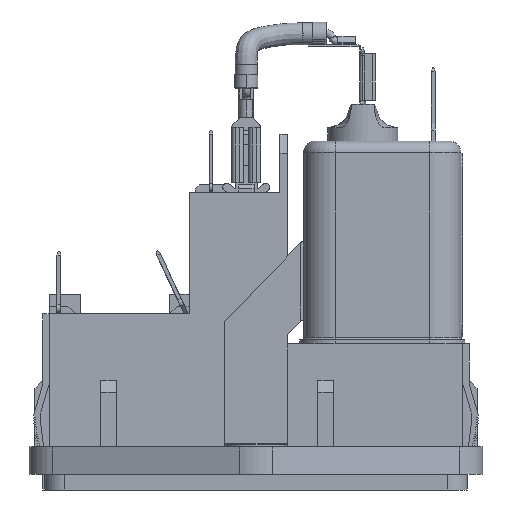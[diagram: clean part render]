
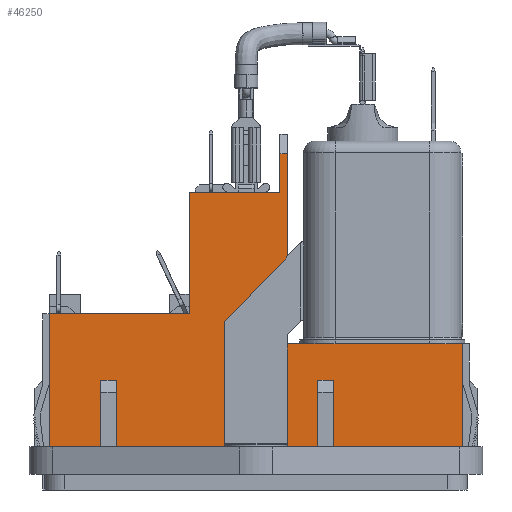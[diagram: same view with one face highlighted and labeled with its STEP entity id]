
A CAD part, left-side view. The second image highlights one B-rep face of the part: STEP entity #46250.
In plain terms, the highlighted planar face has unit normal (-1, 0, 0).
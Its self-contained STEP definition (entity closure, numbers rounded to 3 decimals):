
#31406=CARTESIAN_POINT('',(-13.35,8.55,36.0));
#31407=VERTEX_POINT('',#31406);
#31408=CARTESIAN_POINT('',(-13.35,-3.05,36.0));
#31409=VERTEX_POINT('',#31408);
#31410=CARTESIAN_POINT('',(-13.35,8.55,36.0));
#31411=DIRECTION('',(0.0,-1.0,0.0));
#31412=VECTOR('',#31411,11.6);
#31413=LINE('',#31410,#31412);
#31414=EDGE_CURVE('',#31407,#31409,#31413,.T.);
#33040=CARTESIAN_POINT('',(-13.35,-7.4,16.7));
#33041=VERTEX_POINT('',#33040);
#33042=CARTESIAN_POINT('',(-13.35,-7.748,16.7));
#33043=VERTEX_POINT('',#33042);
#33044=CARTESIAN_POINT('',(-13.35,-7.4,16.7));
#33045=DIRECTION('',(0.0,-1.0,0.0));
#33046=VECTOR('',#33045,0.348);
#33047=LINE('',#33044,#33046);
#33048=EDGE_CURVE('',#33041,#33043,#33047,.T.);
#33067=CARTESIAN_POINT('',(-13.35,-24.552,16.7));
#33068=VERTEX_POINT('',#33067);
#33076=CARTESIAN_POINT('',(-13.35,-24.9,16.7));
#33077=VERTEX_POINT('',#33076);
#33078=CARTESIAN_POINT('',(-13.35,-24.552,16.7));
#33079=DIRECTION('',(0.0,-1.0,0.0));
#33080=VECTOR('',#33079,0.348);
#33081=LINE('',#33078,#33080);
#33082=EDGE_CURVE('',#33068,#33077,#33081,.T.);
#36244=CARTESIAN_POINT('',(-13.35,-10.25,16.7));
#36245=VERTEX_POINT('',#36244);
#36246=CARTESIAN_POINT('',(-13.35,-7.748,16.7));
#36247=DIRECTION('',(0.0,-1.0,0.0));
#36248=VECTOR('',#36247,2.502);
#36249=LINE('',#36246,#36248);
#36250=EDGE_CURVE('',#33043,#36245,#36249,.T.);
#36305=CARTESIAN_POINT('',(-13.35,-4.05,16.7));
#36306=VERTEX_POINT('',#36305);
#36313=CARTESIAN_POINT('',(-13.35,-4.05,16.7));
#36314=DIRECTION('',(0.0,-1.0,0.0));
#36315=VECTOR('',#36314,3.35);
#36316=LINE('',#36313,#36315);
#36317=EDGE_CURVE('',#36306,#33041,#36316,.T.);
#36360=CARTESIAN_POINT('',(-13.35,-26.45,16.7));
#36361=VERTEX_POINT('',#36360);
#36362=CARTESIAN_POINT('',(-13.35,-24.9,16.7));
#36363=DIRECTION('',(0.0,-1.0,0.0));
#36364=VECTOR('',#36363,1.55);
#36365=LINE('',#36362,#36364);
#36366=EDGE_CURVE('',#33077,#36361,#36365,.T.);
#36464=CARTESIAN_POINT('',(-13.35,-22.05,16.7));
#36465=VERTEX_POINT('',#36464);
#36473=CARTESIAN_POINT('',(-13.35,-22.05,16.7));
#36474=DIRECTION('',(0.0,-1.0,0.0));
#36475=VECTOR('',#36474,2.502);
#36476=LINE('',#36473,#36475);
#36477=EDGE_CURVE('',#36465,#33068,#36476,.T.);
#36817=CARTESIAN_POINT('',(-13.35,-26.45,3.5));
#36818=VERTEX_POINT('',#36817);
#36825=CARTESIAN_POINT('',(-13.35,-9.9,3.5));
#36826=VERTEX_POINT('',#36825);
#36827=CARTESIAN_POINT('',(-13.35,-26.45,3.5));
#36828=DIRECTION('',(0.0,1.0,0.0));
#36829=VECTOR('',#36828,16.55);
#36830=LINE('',#36827,#36829);
#36831=EDGE_CURVE('',#36818,#36826,#36830,.T.);
#36849=CARTESIAN_POINT('',(-13.35,-7.9,3.5));
#36850=VERTEX_POINT('',#36849);
#36857=CARTESIAN_POINT('',(-13.35,17.85,3.5));
#36858=VERTEX_POINT('',#36857);
#36859=CARTESIAN_POINT('',(-13.35,-7.9,3.5));
#36860=DIRECTION('',(0.0,1.0,0.0));
#36861=VECTOR('',#36860,25.75);
#36862=LINE('',#36859,#36861);
#36863=EDGE_CURVE('',#36850,#36858,#36862,.T.);
#36881=CARTESIAN_POINT('',(-13.35,19.85,3.5));
#36882=VERTEX_POINT('',#36881);
#36889=CARTESIAN_POINT('',(-13.35,26.45,3.5));
#36890=VERTEX_POINT('',#36889);
#36891=CARTESIAN_POINT('',(-13.35,19.85,3.5));
#36892=DIRECTION('',(0.0,1.0,0.0));
#36893=VECTOR('',#36892,6.6);
#36894=LINE('',#36891,#36893);
#36895=EDGE_CURVE('',#36882,#36890,#36894,.T.);
#38268=CARTESIAN_POINT('',(-13.35,8.55,20.5));
#38269=VERTEX_POINT('',#38268);
#38276=CARTESIAN_POINT('',(-13.35,8.55,20.5));
#38277=DIRECTION('',(0.0,0.0,1.0));
#38278=VECTOR('',#38277,15.5);
#38279=LINE('',#38276,#38278);
#38280=EDGE_CURVE('',#38269,#31407,#38279,.T.);
#38443=CARTESIAN_POINT('',(-13.35,26.45,20.5));
#38444=VERTEX_POINT('',#38443);
#38451=CARTESIAN_POINT('',(-13.35,8.55,20.5));
#38452=DIRECTION('',(0.0,1.0,0.0));
#38453=VECTOR('',#38452,17.9);
#38454=LINE('',#38451,#38453);
#38455=EDGE_CURVE('',#38269,#38444,#38454,.T.);
#44984=CARTESIAN_POINT('',(-13.35,19.85,12.));
#44985=VERTEX_POINT('',#44984);
#45002=CARTESIAN_POINT('',(-13.35,17.85,12.));
#45003=VERTEX_POINT('',#45002);
#45010=CARTESIAN_POINT('',(-13.35,19.85,12.));
#45011=DIRECTION('',(0.0,-1.0,0.0));
#45012=VECTOR('',#45011,2.0);
#45013=LINE('',#45010,#45012);
#45014=EDGE_CURVE('',#44985,#45003,#45013,.T.);
#45032=CARTESIAN_POINT('',(-13.35,17.85,12.0));
#45033=DIRECTION('',(0.0,0.0,-1.0));
#45034=VECTOR('',#45033,8.5);
#45035=LINE('',#45032,#45034);
#45036=EDGE_CURVE('',#45003,#36858,#45035,.T.);
#45046=CARTESIAN_POINT('',(-13.35,-7.9,12.));
#45047=VERTEX_POINT('',#45046);
#45064=CARTESIAN_POINT('',(-13.35,-9.9,12.));
#45065=VERTEX_POINT('',#45064);
#45072=CARTESIAN_POINT('',(-13.35,-7.9,12.));
#45073=DIRECTION('',(0.0,-1.0,0.0));
#45074=VECTOR('',#45073,2.0);
#45075=LINE('',#45072,#45074);
#45076=EDGE_CURVE('',#45047,#45065,#45075,.T.);
#45094=CARTESIAN_POINT('',(-13.35,-9.9,12.0));
#45095=DIRECTION('',(0.0,0.0,-1.0));
#45096=VECTOR('',#45095,8.5);
#45097=LINE('',#45094,#45096);
#45098=EDGE_CURVE('',#45065,#36826,#45097,.T.);
#45354=CARTESIAN_POINT('',(-13.35,-7.9,3.5));
#45355=DIRECTION('',(0.0,0.0,1.0));
#45356=VECTOR('',#45355,8.5);
#45357=LINE('',#45354,#45356);
#45358=EDGE_CURVE('',#36850,#45047,#45357,.T.);
#45388=CARTESIAN_POINT('',(-13.35,19.85,3.5));
#45389=DIRECTION('',(0.0,0.0,1.0));
#45390=VECTOR('',#45389,8.5);
#45391=LINE('',#45388,#45390);
#45392=EDGE_CURVE('',#36882,#44985,#45391,.T.);
#46133=CARTESIAN_POINT('',(-13.35,-4.05,41.0));
#46134=VERTEX_POINT('',#46133);
#46141=CARTESIAN_POINT('',(-13.35,-4.05,41.0));
#46142=DIRECTION('',(0.0,0.0,-1.0));
#46143=VECTOR('',#46142,24.3);
#46144=LINE('',#46141,#46143);
#46145=EDGE_CURVE('',#46134,#36306,#46144,.T.);
#46166=CARTESIAN_POINT('',(-13.35,-3.05,41.0));
#46167=VERTEX_POINT('',#46166);
#46174=CARTESIAN_POINT('',(-13.35,-3.05,41.0));
#46175=DIRECTION('',(0.0,-1.0,0.0));
#46176=VECTOR('',#46175,1.);
#46177=LINE('',#46174,#46176);
#46178=EDGE_CURVE('',#46167,#46134,#46177,.T.);
#46183=CARTESIAN_POINT('',(-13.35,-26.45,3.5));
#46184=DIRECTION('',(-1.0,0.0,0.0));
#46185=DIRECTION('',(0.0,0.0,1.0));
#46186=AXIS2_PLACEMENT_3D('',#46183,#46184,#46185);
#46187=PLANE('',#46186);
#46188=ORIENTED_EDGE('',*,*,#45098,.T.);
#46189=ORIENTED_EDGE('',*,*,#36831,.F.);
#46190=CARTESIAN_POINT('',(-13.35,-26.45,3.5));
#46191=DIRECTION('',(0.0,0.0,1.0));
#46192=VECTOR('',#46191,13.2);
#46193=LINE('',#46190,#46192);
#46194=EDGE_CURVE('',#36818,#36361,#46193,.T.);
#46195=ORIENTED_EDGE('',*,*,#46194,.T.);
#46196=ORIENTED_EDGE('',*,*,#36366,.F.);
#46197=ORIENTED_EDGE('',*,*,#33082,.F.);
#46198=ORIENTED_EDGE('',*,*,#36477,.F.);
#46199=CARTESIAN_POINT('',(-13.35,-22.05,18.7));
#46200=VERTEX_POINT('',#46199);
#46201=CARTESIAN_POINT('',(-13.35,-22.05,18.7));
#46202=DIRECTION('',(0.0,0.0,-1.0));
#46203=VECTOR('',#46202,2.);
#46204=LINE('',#46201,#46203);
#46205=EDGE_CURVE('',#46200,#36465,#46204,.T.);
#46206=ORIENTED_EDGE('',*,*,#46205,.F.);
#46207=CARTESIAN_POINT('',(-13.35,-10.25,18.7));
#46208=VERTEX_POINT('',#46207);
#46209=CARTESIAN_POINT('',(-13.35,-10.25,18.7));
#46210=DIRECTION('',(0.0,-1.0,0.0));
#46211=VECTOR('',#46210,11.8);
#46212=LINE('',#46209,#46211);
#46213=EDGE_CURVE('',#46208,#46200,#46212,.T.);
#46214=ORIENTED_EDGE('',*,*,#46213,.F.);
#46215=CARTESIAN_POINT('',(-13.35,-10.25,16.7));
#46216=DIRECTION('',(0.0,0.0,1.0));
#46217=VECTOR('',#46216,2.0);
#46218=LINE('',#46215,#46217);
#46219=EDGE_CURVE('',#36245,#46208,#46218,.T.);
#46220=ORIENTED_EDGE('',*,*,#46219,.F.);
#46221=ORIENTED_EDGE('',*,*,#36250,.F.);
#46222=ORIENTED_EDGE('',*,*,#33048,.F.);
#46223=ORIENTED_EDGE('',*,*,#36317,.F.);
#46224=ORIENTED_EDGE('',*,*,#46145,.F.);
#46225=ORIENTED_EDGE('',*,*,#46178,.F.);
#46226=CARTESIAN_POINT('',(-13.35,-3.05,36.));
#46227=DIRECTION('',(0.0,0.0,1.0));
#46228=VECTOR('',#46227,5.);
#46229=LINE('',#46226,#46228);
#46230=EDGE_CURVE('',#31409,#46167,#46229,.T.);
#46231=ORIENTED_EDGE('',*,*,#46230,.F.);
#46232=ORIENTED_EDGE('',*,*,#31414,.F.);
#46233=ORIENTED_EDGE('',*,*,#38280,.F.);
#46234=ORIENTED_EDGE('',*,*,#38455,.T.);
#46235=CARTESIAN_POINT('',(-13.35,26.45,3.5));
#46236=DIRECTION('',(0.0,0.0,1.0));
#46237=VECTOR('',#46236,17.);
#46238=LINE('',#46235,#46237);
#46239=EDGE_CURVE('',#36890,#38444,#46238,.T.);
#46240=ORIENTED_EDGE('',*,*,#46239,.F.);
#46241=ORIENTED_EDGE('',*,*,#36895,.F.);
#46242=ORIENTED_EDGE('',*,*,#45392,.T.);
#46243=ORIENTED_EDGE('',*,*,#45014,.T.);
#46244=ORIENTED_EDGE('',*,*,#45036,.T.);
#46245=ORIENTED_EDGE('',*,*,#36863,.F.);
#46246=ORIENTED_EDGE('',*,*,#45358,.T.);
#46247=ORIENTED_EDGE('',*,*,#45076,.T.);
#46248=EDGE_LOOP('',(#46188,#46189,#46195,#46196,#46197,#46198,#46206,#46214,#46220,#46221,#46222,#46223,#46224,#46225,#46231,#46232,#46233,#46234,#46240,#46241,#46242,#46243,#46244,#46245,#46246,#46247));
#46249=FACE_OUTER_BOUND('',#46248,.T.);
#46250=ADVANCED_FACE('',(#46249),#46187,.T.);
